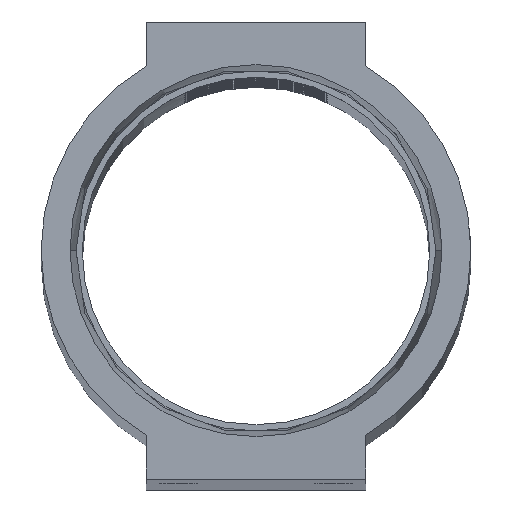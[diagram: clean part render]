
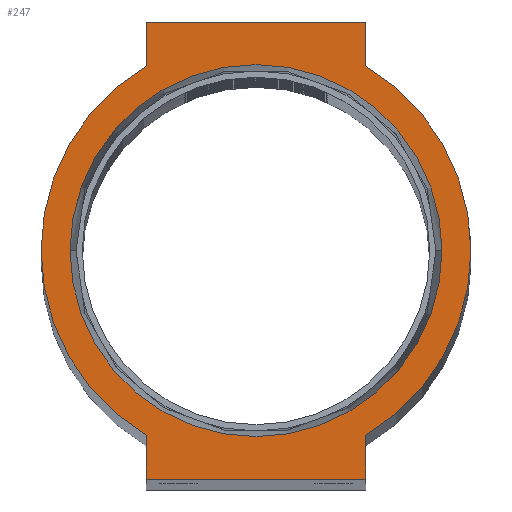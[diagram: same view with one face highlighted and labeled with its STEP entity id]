
A CAD part, top view. The second image highlights one B-rep face of the part: STEP entity #247.
In plain terms, the highlighted planar face has unit normal (0, 0, 1).
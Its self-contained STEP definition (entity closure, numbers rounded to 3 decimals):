
#24 = VERTEX_POINT ( 'NONE', #7184 ) ;
#247 = ADVANCED_FACE ( 'NONE', ( #8331, #375 ), #3569, .T. ) ;
#274 = ORIENTED_EDGE ( 'NONE', *, *, #8290, .T. ) ;
#375 = FACE_OUTER_BOUND ( 'NONE', #13975, .T. ) ;
#462 = CARTESIAN_POINT ( 'NONE',  ( 12., -25., 0. ) ) ;
#492 = VERTEX_POINT ( 'NONE', #13030 ) ;
#625 = DIRECTION ( 'NONE',  ( 1., 0., 0. ) ) ;
#654 = CIRCLE ( 'NONE', #10291, 23.5 ) ;
#769 = CARTESIAN_POINT ( 'NONE',  ( 0., 0., 0. ) ) ;
#898 = DIRECTION ( 'NONE',  ( 0., -1., 0. ) ) ;
#1008 = CARTESIAN_POINT ( 'NONE',  ( -12., -25., 0. ) ) ;
#1202 = VERTEX_POINT ( 'NONE', #5700 ) ;
#1403 = DIRECTION ( 'NONE',  ( 0., 1., 0. ) ) ;
#1587 = AXIS2_PLACEMENT_3D ( 'NONE', #8403, #2399, #7097 ) ;
#1741 = DIRECTION ( 'NONE',  ( 1., 0., 0. ) ) ;
#1863 = CIRCLE ( 'NONE', #3844, 23.5 ) ;
#2024 = VECTOR ( 'NONE', #898, 1000. ) ;
#2068 = AXIS2_PLACEMENT_3D ( 'NONE', #6492, #3474, #9985 ) ;
#2258 = LINE ( 'NONE', #1008, #9478 ) ;
#2399 = DIRECTION ( 'NONE',  ( 0., 0., 1. ) ) ;
#2487 = DIRECTION ( 'NONE',  ( -1., 0., 0. ) ) ;
#2516 = CARTESIAN_POINT ( 'NONE',  ( 0., 0., 0. ) ) ;
#3267 = DIRECTION ( 'NONE',  ( 0., 0., 1. ) ) ;
#3345 = CIRCLE ( 'NONE', #11987, 23.5 ) ;
#3417 = EDGE_CURVE ( 'NONE', #13731, #3830, #3345, .T. ) ;
#3474 = DIRECTION ( 'NONE',  ( 0., 0., 1. ) ) ;
#3569 = PLANE ( 'NONE',  #1587 ) ;
#3589 = VECTOR ( 'NONE', #12473, 1000. ) ;
#3671 = LINE ( 'NONE', #13065, #11201 ) ;
#3830 = VERTEX_POINT ( 'NONE', #14856 ) ;
#3844 = AXIS2_PLACEMENT_3D ( 'NONE', #769, #3267, #625 ) ;
#3857 = ORIENTED_EDGE ( 'NONE', *, *, #13714, .T. ) ;
#4504 = EDGE_CURVE ( 'NONE', #8345, #13731, #654, .T. ) ;
#4820 = VERTEX_POINT ( 'NONE', #8274 ) ;
#4971 = EDGE_CURVE ( 'NONE', #10158, #8345, #7411, .T. ) ;
#5576 = CARTESIAN_POINT ( 'NONE',  ( 23.5, 0., 0. ) ) ;
#5689 = ORIENTED_EDGE ( 'NONE', *, *, #12217, .T. ) ;
#5700 = CARTESIAN_POINT ( 'NONE',  ( -12., -20.205, 0. ) ) ;
#6362 = DIRECTION ( 'NONE',  ( 0., 0., 1. ) ) ;
#6366 = EDGE_CURVE ( 'NONE', #24, #10158, #2258, .T. ) ;
#6492 = CARTESIAN_POINT ( 'NONE',  ( 0., 0., 0. ) ) ;
#6581 = EDGE_CURVE ( 'NONE', #7973, #8603, #12760, .T. ) ;
#7097 = DIRECTION ( 'NONE',  ( 1., 0., 0. ) ) ;
#7183 = VERTEX_POINT ( 'NONE', #10491 ) ;
#7184 = CARTESIAN_POINT ( 'NONE',  ( -12., -25., 0. ) ) ;
#7215 = DIRECTION ( 'NONE',  ( 1., 0., 0. ) ) ;
#7312 = EDGE_CURVE ( 'NONE', #492, #4820, #13919, .T. ) ;
#7313 = DIRECTION ( 'NONE',  ( 0., 1., 0. ) ) ;
#7411 = LINE ( 'NONE', #462, #9465 ) ;
#7969 = CIRCLE ( 'NONE', #2068, 20.34 ) ;
#7973 = VERTEX_POINT ( 'NONE', #11457 ) ;
#8274 = CARTESIAN_POINT ( 'NONE',  ( -20.34, 0., 0. ) ) ;
#8290 = EDGE_CURVE ( 'NONE', #3830, #7183, #14097, .T. ) ;
#8331 = FACE_BOUND ( 'NONE', #14278, .T. ) ;
#8345 = VERTEX_POINT ( 'NONE', #13257 ) ;
#8403 = CARTESIAN_POINT ( 'NONE',  ( 0., 0., 0. ) ) ;
#8603 = VERTEX_POINT ( 'NONE', #11725 ) ;
#9070 = ORIENTED_EDGE ( 'NONE', *, *, #12322, .F. ) ;
#9465 = VECTOR ( 'NONE', #1403, 1000. ) ;
#9478 = VECTOR ( 'NONE', #10463, 1000. ) ;
#9557 = CARTESIAN_POINT ( 'NONE',  ( 0., 0., 0. ) ) ;
#9985 = DIRECTION ( 'NONE',  ( 1., 0., 0. ) ) ;
#10158 = VERTEX_POINT ( 'NONE', #11529 ) ;
#10291 = AXIS2_PLACEMENT_3D ( 'NONE', #9557, #13387, #1741 ) ;
#10463 = DIRECTION ( 'NONE',  ( 1., 0., 0. ) ) ;
#10491 = CARTESIAN_POINT ( 'NONE',  ( 12., 25., 0. ) ) ;
#10574 = ORIENTED_EDGE ( 'NONE', *, *, #10823, .T. ) ;
#10815 = ORIENTED_EDGE ( 'NONE', *, *, #6581, .T. ) ;
#10823 = EDGE_CURVE ( 'NONE', #1202, #24, #11284, .T. ) ;
#11201 = VECTOR ( 'NONE', #2487, 1000. ) ;
#11284 = LINE ( 'NONE', #14805, #2024 ) ;
#11386 = ORIENTED_EDGE ( 'NONE', *, *, #4504, .T. ) ;
#11457 = CARTESIAN_POINT ( 'NONE',  ( -12., 25., 0. ) ) ;
#11529 = CARTESIAN_POINT ( 'NONE',  ( 12., -25., 0. ) ) ;
#11544 = CARTESIAN_POINT ( 'NONE',  ( -12., 25., 0. ) ) ;
#11725 = CARTESIAN_POINT ( 'NONE',  ( -12., 20.205, 0. ) ) ;
#11886 = ORIENTED_EDGE ( 'NONE', *, *, #3417, .T. ) ;
#11987 = AXIS2_PLACEMENT_3D ( 'NONE', #13724, #14899, #12519 ) ;
#12049 = ORIENTED_EDGE ( 'NONE', *, *, #6366, .T. ) ;
#12217 = EDGE_CURVE ( 'NONE', #7183, #7973, #3671, .T. ) ;
#12322 = EDGE_CURVE ( 'NONE', #4820, #492, #7969, .T. ) ;
#12473 = DIRECTION ( 'NONE',  ( 0., -1., 0. ) ) ;
#12519 = DIRECTION ( 'NONE',  ( 1., 0., 0. ) ) ;
#12760 = LINE ( 'NONE', #11544, #3589 ) ;
#13026 = ORIENTED_EDGE ( 'NONE', *, *, #4971, .T. ) ;
#13030 = CARTESIAN_POINT ( 'NONE',  ( 20.34, 0., 0. ) ) ;
#13065 = CARTESIAN_POINT ( 'NONE',  ( -12., 25., 0. ) ) ;
#13097 = CARTESIAN_POINT ( 'NONE',  ( 12., 25., 0. ) ) ;
#13257 = CARTESIAN_POINT ( 'NONE',  ( 12., -20.205, 0. ) ) ;
#13387 = DIRECTION ( 'NONE',  ( 0., 0., 1. ) ) ;
#13712 = VECTOR ( 'NONE', #7313, 1000. ) ;
#13714 = EDGE_CURVE ( 'NONE', #8603, #1202, #1863, .T. ) ;
#13724 = CARTESIAN_POINT ( 'NONE',  ( 0., 0., 0. ) ) ;
#13731 = VERTEX_POINT ( 'NONE', #5576 ) ;
#13767 = ORIENTED_EDGE ( 'NONE', *, *, #7312, .F. ) ;
#13919 = CIRCLE ( 'NONE', #14686, 20.34 ) ;
#13975 = EDGE_LOOP ( 'NONE', ( #274, #5689, #10815, #3857, #10574, #12049, #13026, #11386, #11886 ) ) ;
#14097 = LINE ( 'NONE', #13097, #13712 ) ;
#14278 = EDGE_LOOP ( 'NONE', ( #13767, #9070 ) ) ;
#14686 = AXIS2_PLACEMENT_3D ( 'NONE', #2516, #6362, #7215 ) ;
#14805 = CARTESIAN_POINT ( 'NONE',  ( -12., -25., 0. ) ) ;
#14856 = CARTESIAN_POINT ( 'NONE',  ( 12., 20.205, 0. ) ) ;
#14899 = DIRECTION ( 'NONE',  ( 0., 0., 1. ) ) ;
